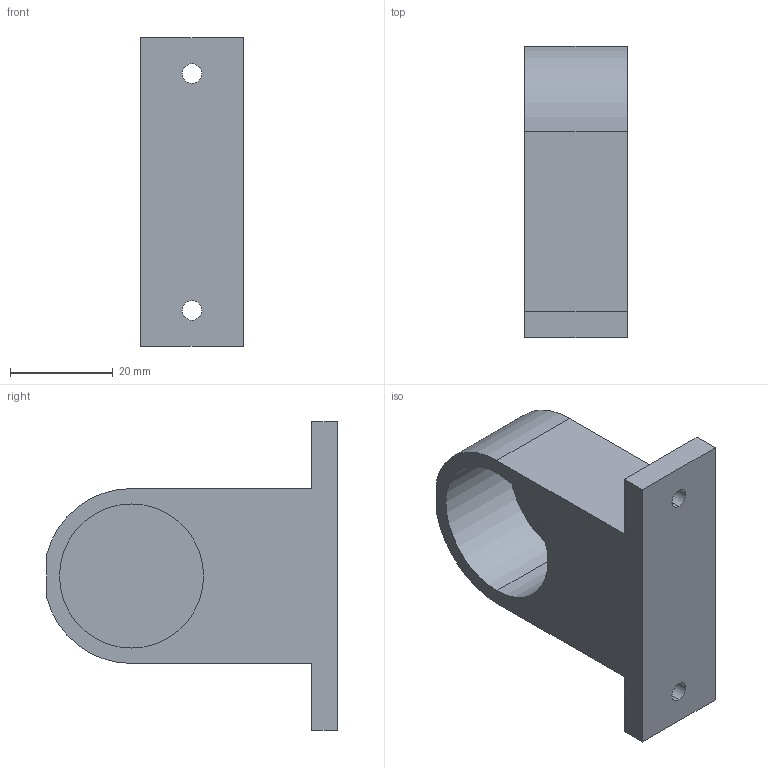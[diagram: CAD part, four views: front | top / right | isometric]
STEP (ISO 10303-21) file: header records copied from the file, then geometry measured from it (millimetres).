
FILE_DESCRIPTION (( 'STEP AP214' ), '1' );
FILE_NAME ('PJ-704A.STEP', '2023-09-12T11:24:23', ( 'catia' ), ( 'HP Inc.' ), 'SwSTEP 2.0', 'SolidWorks 2021', '' );
FILE_SCHEMA (( 'AUTOMOTIVE_DESIGN' ));
Length unit declared in the file: millimetre
Products named in the file (1): PJ-704A
Bounding box: 20 x 56.5 x 60 mm (x, y, z)
Volume: 27935.4 mm3; surface area: 9882.4 mm2
Topology: 1 solids, 1 shells, 19 faces, 48 edges, 32 vertices
Faces by surface type: plane 11, cylinder 8
Entity records: 620 total; most frequent: DIRECTION 104, CARTESIAN_POINT 100, ORIENTED_EDGE 96, EDGE_CURVE 48, AXIS2_PLACEMENT_3D 36, VERTEX_POINT 32, VECTOR 32, LINE 32
